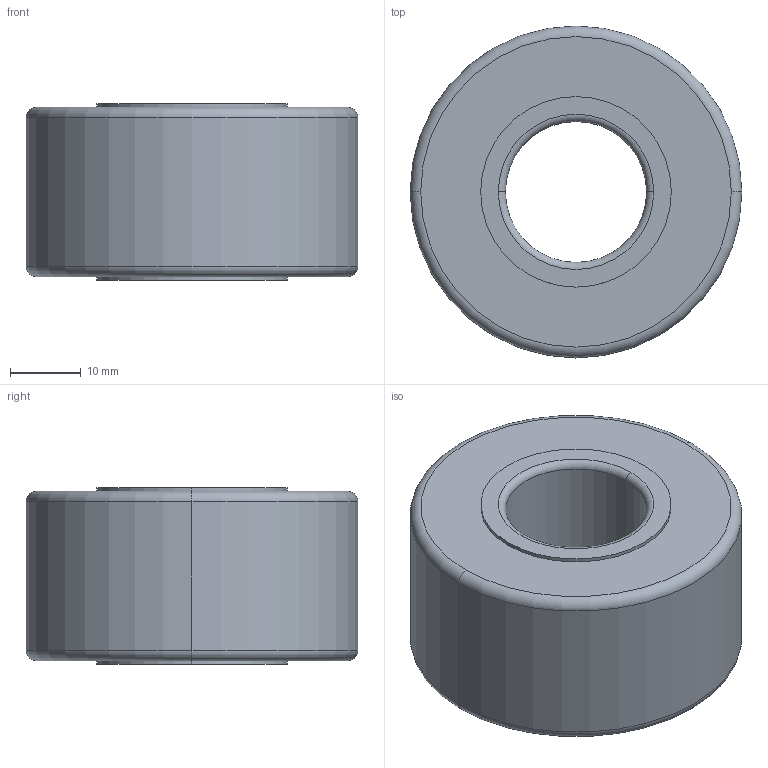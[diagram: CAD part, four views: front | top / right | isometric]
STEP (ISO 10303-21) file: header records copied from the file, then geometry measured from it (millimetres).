
FILE_DESCRIPTION (( 'STEP AP214' ), '1' );
FILE_NAME ('3DNUTR20-47.STEP', '2013-12-18T09:02:41', ( 'usuario' ), ( 'Hewlett-Packard Company' ), 'SwSTEP 2.0', 'SolidWorks 2017', '' );
FILE_SCHEMA (( 'AUTOMOTIVE_DESIGN' ));
Length unit declared in the file: millimetre
Products named in the file (1): 3DNUTR20-47
Bounding box: 47 x 47 x 25 mm (x, y, z)
Volume: 34189.1 mm3; surface area: 7795.7 mm2
Topology: 1 solids, 1 shells, 20 faces, 40 edges, 24 vertices
Faces by surface type: cylinder 8, torus 8, plane 4
Entity records: 570 total; most frequent: DIRECTION 114, CARTESIAN_POINT 85, ORIENTED_EDGE 80, AXIS2_PLACEMENT_3D 53, EDGE_CURVE 40, CIRCLE 32, EDGE_LOOP 24, VERTEX_POINT 24
